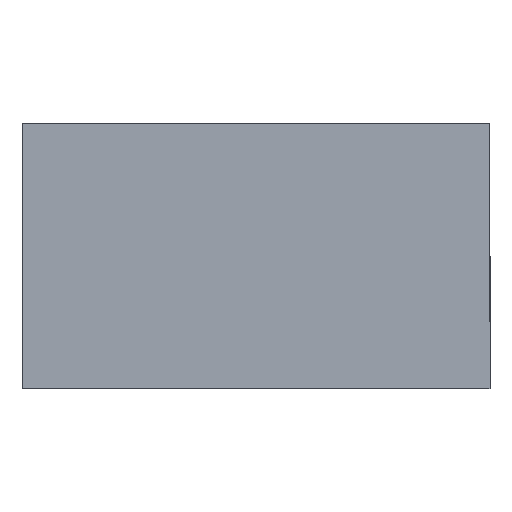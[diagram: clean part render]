
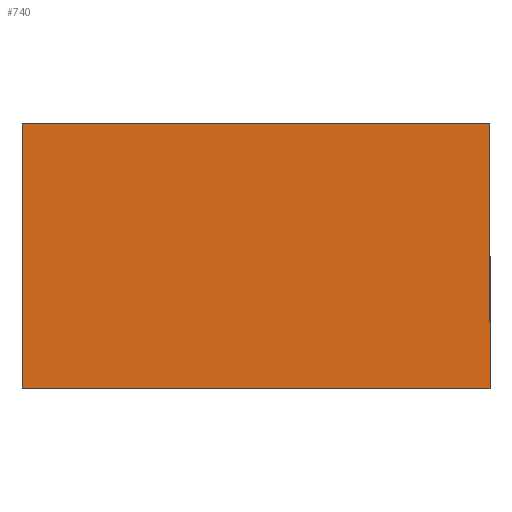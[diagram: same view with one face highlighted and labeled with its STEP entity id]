
A CAD part, left-side view. The second image highlights one B-rep face of the part: STEP entity #740.
In plain terms, the highlighted planar face has unit normal (-1, 0, 0).
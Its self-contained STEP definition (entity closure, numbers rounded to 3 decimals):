
#43 = PLANE('',#44);
#44 = AXIS2_PLACEMENT_3D('',#45,#46,#47);
#45 = CARTESIAN_POINT('',(22.,-17.,-30.));
#46 = DIRECTION('',(0.,-1.,0.));
#47 = DIRECTION('',(-1.,0.,0.));
#120 = VERTEX_POINT('',#121);
#121 = CARTESIAN_POINT('',(1.,-17.,30.));
#135 = PLANE('',#136);
#136 = AXIS2_PLACEMENT_3D('',#137,#138,#139);
#137 = CARTESIAN_POINT('',(22.,-17.,30.));
#138 = DIRECTION('',(0.,0.,1.));
#139 = DIRECTION('',(0.,-1.,0.));
#147 = EDGE_CURVE('',#148,#120,#150,.T.);
#148 = VERTEX_POINT('',#149);
#149 = CARTESIAN_POINT('',(1.,-17.,-30.));
#150 = SURFACE_CURVE('',#151,(#155,#162),.PCURVE_S1.);
#151 = LINE('',#152,#153);
#152 = CARTESIAN_POINT('',(1.,-17.,-30.));
#153 = VECTOR('',#154,1.);
#154 = DIRECTION('',(0.,0.,1.));
#155 = PCURVE('',#43,#156);
#156 = DEFINITIONAL_REPRESENTATION('',(#157),#161);
#157 = LINE('',#158,#159);
#158 = CARTESIAN_POINT('',(21.,0.));
#159 = VECTOR('',#160,1.);
#160 = DIRECTION('',(0.,-1.));
#161 = ( GEOMETRIC_REPRESENTATION_CONTEXT(2) 
PARAMETRIC_REPRESENTATION_CONTEXT() REPRESENTATION_CONTEXT('2D SPACE',''
  ) );
#162 = PCURVE('',#163,#168);
#163 = PLANE('',#164);
#164 = AXIS2_PLACEMENT_3D('',#165,#166,#167);
#165 = CARTESIAN_POINT('',(1.,-17.,-30.));
#166 = DIRECTION('',(-1.,0.,0.));
#167 = DIRECTION('',(0.,1.,0.));
#168 = DEFINITIONAL_REPRESENTATION('',(#169),#173);
#169 = LINE('',#170,#171);
#170 = CARTESIAN_POINT('',(0.,-0.));
#171 = VECTOR('',#172,1.);
#172 = DIRECTION('',(0.,-1.));
#173 = ( GEOMETRIC_REPRESENTATION_CONTEXT(2) 
PARAMETRIC_REPRESENTATION_CONTEXT() REPRESENTATION_CONTEXT('2D SPACE',''
  ) );
#189 = PLANE('',#190);
#190 = AXIS2_PLACEMENT_3D('',#191,#192,#193);
#191 = CARTESIAN_POINT('',(22.,-17.,-30.));
#192 = DIRECTION('',(0.,0.,1.));
#193 = DIRECTION('',(0.,-1.,0.));
#637 = VERTEX_POINT('',#638);
#638 = CARTESIAN_POINT('',(1.,17.,-30.));
#652 = PLANE('',#653);
#653 = AXIS2_PLACEMENT_3D('',#654,#655,#656);
#654 = CARTESIAN_POINT('',(1.,17.,-30.));
#655 = DIRECTION('',(0.,1.,0.));
#656 = DIRECTION('',(1.,0.,0.));
#664 = EDGE_CURVE('',#637,#148,#665,.T.);
#665 = SURFACE_CURVE('',#666,(#670,#677),.PCURVE_S1.);
#666 = LINE('',#667,#668);
#667 = CARTESIAN_POINT('',(1.,17.,-30.));
#668 = VECTOR('',#669,1.);
#669 = DIRECTION('',(0.,-1.,0.));
#670 = PCURVE('',#189,#671);
#671 = DEFINITIONAL_REPRESENTATION('',(#672),#676);
#672 = LINE('',#673,#674);
#673 = CARTESIAN_POINT('',(-34.,-21.));
#674 = VECTOR('',#675,1.);
#675 = DIRECTION('',(1.,0.));
#676 = ( GEOMETRIC_REPRESENTATION_CONTEXT(2) 
PARAMETRIC_REPRESENTATION_CONTEXT() REPRESENTATION_CONTEXT('2D SPACE',''
  ) );
#677 = PCURVE('',#163,#678);
#678 = DEFINITIONAL_REPRESENTATION('',(#679),#683);
#679 = LINE('',#680,#681);
#680 = CARTESIAN_POINT('',(34.,0.));
#681 = VECTOR('',#682,1.);
#682 = DIRECTION('',(-1.,0.));
#683 = ( GEOMETRIC_REPRESENTATION_CONTEXT(2) 
PARAMETRIC_REPRESENTATION_CONTEXT() REPRESENTATION_CONTEXT('2D SPACE',''
  ) );
#740 = ADVANCED_FACE('',(#741),#163,.T.);
#741 = FACE_BOUND('',#742,.T.);
#742 = EDGE_LOOP('',(#743,#744,#767,#788));
#743 = ORIENTED_EDGE('',*,*,#147,.T.);
#744 = ORIENTED_EDGE('',*,*,#745,.F.);
#745 = EDGE_CURVE('',#746,#120,#748,.T.);
#746 = VERTEX_POINT('',#747);
#747 = CARTESIAN_POINT('',(1.,17.,30.));
#748 = SURFACE_CURVE('',#749,(#753,#760),.PCURVE_S1.);
#749 = LINE('',#750,#751);
#750 = CARTESIAN_POINT('',(1.,17.,30.));
#751 = VECTOR('',#752,1.);
#752 = DIRECTION('',(0.,-1.,0.));
#753 = PCURVE('',#163,#754);
#754 = DEFINITIONAL_REPRESENTATION('',(#755),#759);
#755 = LINE('',#756,#757);
#756 = CARTESIAN_POINT('',(34.,-60.));
#757 = VECTOR('',#758,1.);
#758 = DIRECTION('',(-1.,0.));
#759 = ( GEOMETRIC_REPRESENTATION_CONTEXT(2) 
PARAMETRIC_REPRESENTATION_CONTEXT() REPRESENTATION_CONTEXT('2D SPACE',''
  ) );
#760 = PCURVE('',#135,#761);
#761 = DEFINITIONAL_REPRESENTATION('',(#762),#766);
#762 = LINE('',#763,#764);
#763 = CARTESIAN_POINT('',(-34.,-21.));
#764 = VECTOR('',#765,1.);
#765 = DIRECTION('',(1.,0.));
#766 = ( GEOMETRIC_REPRESENTATION_CONTEXT(2) 
PARAMETRIC_REPRESENTATION_CONTEXT() REPRESENTATION_CONTEXT('2D SPACE',''
  ) );
#767 = ORIENTED_EDGE('',*,*,#768,.F.);
#768 = EDGE_CURVE('',#637,#746,#769,.T.);
#769 = SURFACE_CURVE('',#770,(#774,#781),.PCURVE_S1.);
#770 = LINE('',#771,#772);
#771 = CARTESIAN_POINT('',(1.,17.,-30.));
#772 = VECTOR('',#773,1.);
#773 = DIRECTION('',(0.,0.,1.));
#774 = PCURVE('',#163,#775);
#775 = DEFINITIONAL_REPRESENTATION('',(#776),#780);
#776 = LINE('',#777,#778);
#777 = CARTESIAN_POINT('',(34.,0.));
#778 = VECTOR('',#779,1.);
#779 = DIRECTION('',(0.,-1.));
#780 = ( GEOMETRIC_REPRESENTATION_CONTEXT(2) 
PARAMETRIC_REPRESENTATION_CONTEXT() REPRESENTATION_CONTEXT('2D SPACE',''
  ) );
#781 = PCURVE('',#652,#782);
#782 = DEFINITIONAL_REPRESENTATION('',(#783),#787);
#783 = LINE('',#784,#785);
#784 = CARTESIAN_POINT('',(0.,0.));
#785 = VECTOR('',#786,1.);
#786 = DIRECTION('',(0.,-1.));
#787 = ( GEOMETRIC_REPRESENTATION_CONTEXT(2) 
PARAMETRIC_REPRESENTATION_CONTEXT() REPRESENTATION_CONTEXT('2D SPACE',''
  ) );
#788 = ORIENTED_EDGE('',*,*,#664,.T.);
